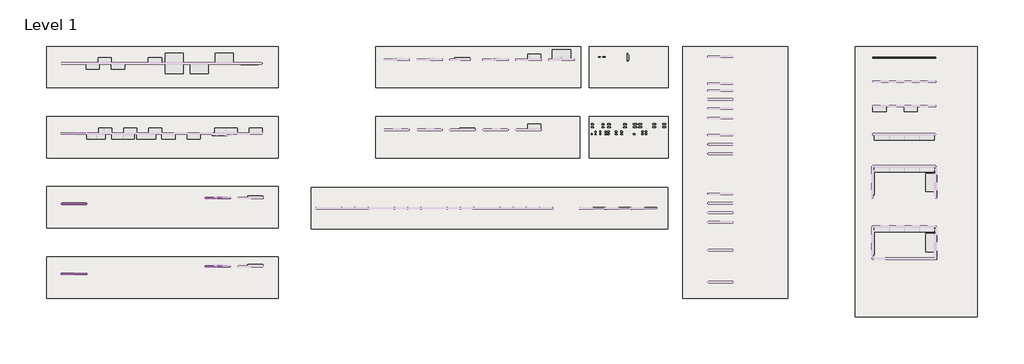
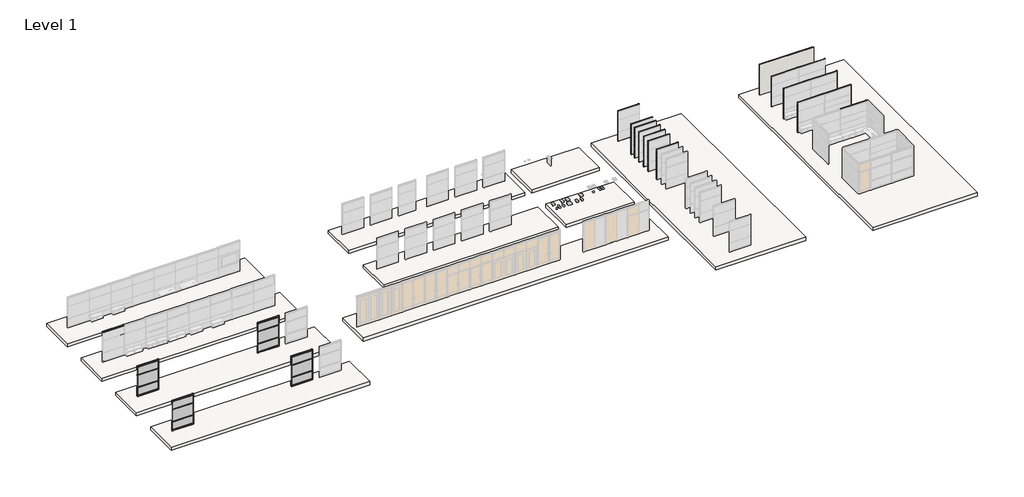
# One storey, part 4 of 13: 52 members, 51 proxies, 11 slabs, 1 wall.
"""IFC4 building model written with IfcOpenShell, lengths in millimetres."""

from ifc_helpers import new_model, si_unit, frame, origin, origin_with_axes, place, context, project, spatial, polyline, outline, extrude, transform, mapped, element, save
from components import fascia_teknion_ceiling_and_base_ffb1_18eda79c, fascia_teknion_ceiling_and_base_ffb1_eec853f0, fascia_teknion_ceiling_and_base_ffb1_01755f40, frame_teknion_horizontal_rail_fkk_5c31f45b, frame_teknion_horizontal_rail_fkk_86cbbdfc, glass_fascia_c39cd329, glass_fascia_9be81d33, glass_fascia_3dd16702, rectangular_mullion_f0f61f1f, rectangular_mullion_816eeb7a, rectangular_mullion_frame_teknion_landscape_vertical_post_05f5e206, rectangular_mullion_frame_teknion_landscape_vertical_post_5ea4eea9, rectangular_mullion_frame_teknion_landscape_vertical_post_1fa3a907

model = new_model("IFC4")

# Units and contexts
model_context = context("Model", 3, world=origin())
ifc_project = project(units=[si_unit("LENGTHUNIT", "METRE", prefix="MILLI")], contexts=[model_context])

# Site, building, storey
site = spatial("IfcSite", under=ifc_project)
building = spatial("IfcBuilding", under=site)
storey = spatial("IfcBuildingStorey", under=building, Name="Level 1", Elevation=0.0)

# Proxies
placement = place(None, origin())
fascia_teknion_ceiling_and_base_ffb1_shape = fascia_teknion_ceiling_and_base_ffb1_18eda79c(model_context)
element("IfcBuildingElementProxy", 1, Name="Fascia-Teknion-Ceiling_and_Base : FFB1", ObjectType="Fascia-Teknion-Ceiling_and_Base : FFB1", at=placement, inside=storey, context=model_context, shape_type="MappedRepresentation", body=[
    mapped(fascia_teknion_ceiling_and_base_ffb1_shape, transform((-44828.5069272, 10408.2163277, 15.875), x_axis=(1.0, 0.0, 0.0), y_axis=(0.0, 1.0, 0.0), z_axis=(0.0, 0.0, 1.0))),
])
element("IfcBuildingElementProxy", 2, Name="Fascia-Teknion-Ceiling_and_Base : FFB1", ObjectType="Fascia-Teknion-Ceiling_and_Base : FFB1", at=placement, inside=storey, context=model_context, shape_type="MappedRepresentation", body=[
    mapped(fascia_teknion_ceiling_and_base_ffb1_shape, transform((-44828.5069272, 10489.2423277, 15.875), x_axis=(1.0, 0.0, 0.0), y_axis=(0.0, 1.0, 0.0), z_axis=(0.0, 0.0, 1.0))),
])
element("IfcBuildingElementProxy", 3, Name="Fascia-Teknion-Ceiling_and_Base : FFB1", ObjectType="Fascia-Teknion-Ceiling_and_Base : FFB1", at=placement, inside=storey, context=model_context, shape_type="MappedRepresentation", body=[
    mapped(fascia_teknion_ceiling_and_base_ffb1_shape, transform((-44828.5069272, 10408.2163277, 2950.845), x_axis=(1.0, 0.0, 0.0), y_axis=(0.0, 1.0, 0.0), z_axis=(0.0, 0.0, 1.0))),
])
element("IfcBuildingElementProxy", 4, Name="Fascia-Teknion-Ceiling_and_Base : FFB1", ObjectType="Fascia-Teknion-Ceiling_and_Base : FFB1", at=placement, inside=storey, context=model_context, shape_type="MappedRepresentation", body=[
    mapped(fascia_teknion_ceiling_and_base_ffb1_shape, transform((-44828.5069272, 10489.2423277, 2950.845), x_axis=(1.0, 0.0, 0.0), y_axis=(0.0, 1.0, 0.0), z_axis=(0.0, 0.0, 1.0))),
])
element("IfcBuildingElementProxy", 5, Name="Fascia-Teknion-Ceiling_and_Base : FFB1", ObjectType="Fascia-Teknion-Ceiling_and_Base : FFB1", at=placement, inside=storey, context=model_context, shape_type="MappedRepresentation", body=[
    mapped(fascia_teknion_ceiling_and_base_ffb1_shape, transform((-44828.5069272, 4726.4903277, 15.875), x_axis=(1.0, 0.0, 0.0), y_axis=(0.0, 1.0, 0.0), z_axis=(0.0, 0.0, 1.0))),
])
element("IfcBuildingElementProxy", 6, Name="Fascia-Teknion-Ceiling_and_Base : FFB1", ObjectType="Fascia-Teknion-Ceiling_and_Base : FFB1", at=placement, inside=storey, context=model_context, shape_type="MappedRepresentation", body=[
    mapped(fascia_teknion_ceiling_and_base_ffb1_shape, transform((-44828.5069272, 4807.5163277, 15.875), x_axis=(1.0, 0.0, 0.0), y_axis=(0.0, 1.0, 0.0), z_axis=(0.0, 0.0, 1.0))),
])
element("IfcBuildingElementProxy", 7, Name="Fascia-Teknion-Ceiling_and_Base : FFB1", ObjectType="Fascia-Teknion-Ceiling_and_Base : FFB1", at=placement, inside=storey, context=model_context, shape_type="MappedRepresentation", body=[
    mapped(fascia_teknion_ceiling_and_base_ffb1_shape, transform((-44828.5069272, 4726.4903277, 2950.845), x_axis=(1.0, 0.0, 0.0), y_axis=(0.0, 1.0, 0.0), z_axis=(0.0, 0.0, 1.0))),
])
element("IfcBuildingElementProxy", 8, Name="Fascia-Teknion-Ceiling_and_Base : FFB1", ObjectType="Fascia-Teknion-Ceiling_and_Base : FFB1", at=placement, inside=storey, context=model_context, shape_type="MappedRepresentation", body=[
    mapped(fascia_teknion_ceiling_and_base_ffb1_shape, transform((-44828.5069272, 4807.5163277, 2950.845), x_axis=(1.0, 0.0, 0.0), y_axis=(0.0, 1.0, 0.0), z_axis=(0.0, 0.0, 1.0))),
])
element("IfcBuildingElementProxy", 9, Name="Fascia-Teknion-Ceiling_and_Base : FFB1", ObjectType="Fascia-Teknion-Ceiling_and_Base : FFB1", at=placement, inside=storey, context=model_context, shape_type="MappedRepresentation", body=[
    mapped(fascia_teknion_ceiling_and_base_ffb1_shape, transform((-33204.1661615, 10865.4163277, 15.875), x_axis=(1.0, 0.0, 0.0), y_axis=(0.0, 1.0, 0.0), z_axis=(0.0, 0.0, 1.0))),
])
element("IfcBuildingElementProxy", 10, Name="Fascia-Teknion-Ceiling_and_Base : FFB1", ObjectType="Fascia-Teknion-Ceiling_and_Base : FFB1", at=placement, inside=storey, context=model_context, shape_type="MappedRepresentation", body=[
    mapped(fascia_teknion_ceiling_and_base_ffb1_shape, transform((-33204.1661615, 10946.4423277, 15.875), x_axis=(1.0, 0.0, 0.0), y_axis=(0.0, 1.0, 0.0), z_axis=(0.0, 0.0, 1.0))),
])
element("IfcBuildingElementProxy", 11, Name="Fascia-Teknion-Ceiling_and_Base : FFB1", ObjectType="Fascia-Teknion-Ceiling_and_Base : FFB1", at=placement, inside=storey, context=model_context, shape_type="MappedRepresentation", body=[
    mapped(fascia_teknion_ceiling_and_base_ffb1_shape, transform((-33204.1661615, 10865.4163277, 2950.845), x_axis=(1.0, 0.0, 0.0), y_axis=(0.0, 1.0, 0.0), z_axis=(0.0, 0.0, 1.0))),
])
element("IfcBuildingElementProxy", 12, Name="Fascia-Teknion-Ceiling_and_Base : FFB1", ObjectType="Fascia-Teknion-Ceiling_and_Base : FFB1", at=placement, inside=storey, context=model_context, shape_type="MappedRepresentation", body=[
    mapped(fascia_teknion_ceiling_and_base_ffb1_shape, transform((-33204.1661615, 10946.4423277, 2950.845), x_axis=(1.0, 0.0, 0.0), y_axis=(0.0, 1.0, 0.0), z_axis=(0.0, 0.0, 1.0))),
])
element("IfcBuildingElementProxy", 13, Name="Fascia-Teknion-Ceiling_and_Base : FFB1", ObjectType="Fascia-Teknion-Ceiling_and_Base : FFB1", at=placement, inside=storey, context=model_context, shape_type="MappedRepresentation", body=[
    mapped(fascia_teknion_ceiling_and_base_ffb1_shape, transform((-33204.1661615, 5336.0903277, 15.875), x_axis=(1.0, 0.0, 0.0), y_axis=(0.0, 1.0, 0.0), z_axis=(0.0, 0.0, 1.0))),
])
element("IfcBuildingElementProxy", 14, Name="Fascia-Teknion-Ceiling_and_Base : FFB1", ObjectType="Fascia-Teknion-Ceiling_and_Base : FFB1", at=placement, inside=storey, context=model_context, shape_type="MappedRepresentation", body=[
    mapped(fascia_teknion_ceiling_and_base_ffb1_shape, transform((-33204.1661615, 5417.1163277, 15.875), x_axis=(1.0, 0.0, 0.0), y_axis=(0.0, 1.0, 0.0), z_axis=(0.0, 0.0, 1.0))),
])
element("IfcBuildingElementProxy", 15, Name="Fascia-Teknion-Ceiling_and_Base : FFB1", ObjectType="Fascia-Teknion-Ceiling_and_Base : FFB1", at=placement, inside=storey, context=model_context, shape_type="MappedRepresentation", body=[
    mapped(fascia_teknion_ceiling_and_base_ffb1_shape, transform((-33204.1661615, 5336.0903277, 2950.845), x_axis=(1.0, 0.0, 0.0), y_axis=(0.0, 1.0, 0.0), z_axis=(0.0, 0.0, 1.0))),
])
element("IfcBuildingElementProxy", 16, Name="Fascia-Teknion-Ceiling_and_Base : FFB1", ObjectType="Fascia-Teknion-Ceiling_and_Base : FFB1", at=placement, inside=storey, context=model_context, shape_type="MappedRepresentation", body=[
    mapped(fascia_teknion_ceiling_and_base_ffb1_shape, transform((-33204.1661615, 5417.1163277, 2950.845), x_axis=(1.0, 0.0, 0.0), y_axis=(0.0, 1.0, 0.0), z_axis=(0.0, 0.0, 1.0))),
])
fascia_teknion_ceiling_and_base_ffb1_2_shape = fascia_teknion_ceiling_and_base_ffb1_eec853f0(model_context)
element("IfcBuildingElementProxy", 17, Name="Fascia-Teknion-Ceiling_and_Base : FFB1", ObjectType="Fascia-Teknion-Ceiling_and_Base : FFB1", at=placement, inside=storey, context=model_context, shape_type="MappedRepresentation", body=[
    mapped(fascia_teknion_ceiling_and_base_ffb1_2_shape, transform((-44821.5120053, 16151.7189796, 15.875), x_axis=(1.0, 0.0, 0.0), y_axis=(0.0, 1.0, 0.0), z_axis=(0.0, 0.0, 1.0))),
])
element("IfcBuildingElementProxy", 18, Name="Fascia-Teknion-Ceiling_and_Base : FFC", ObjectType="Fascia-Teknion-Ceiling_and_Base : FFC", at=placement, inside=storey, context=model_context, shape_type="MappedRepresentation", body=[
    mapped(fascia_teknion_ceiling_and_base_ffb1_2_shape, transform((-44821.5120053, 16151.7189796, 2950.845), x_axis=(1.0, 0.0, 0.0), y_axis=(0.0, 1.0, 0.0), z_axis=(0.0, 0.0, 1.0))),
])
fascia_teknion_ceiling_and_base_ffb1_3_shape = fascia_teknion_ceiling_and_base_ffb1_01755f40(model_context)
element("IfcBuildingElementProxy", 19, Name="Fascia-Teknion-Ceiling_and_Base : FFC", ObjectType="Fascia-Teknion-Ceiling_and_Base : FFC", at=placement, inside=storey, context=model_context, shape_type="MappedRepresentation", body=[
    mapped(fascia_teknion_ceiling_and_base_ffb1_3_shape, transform((-44821.5120053, 16089.7429796, 2950.845), x_axis=(1.0, 0.0, 0.0), y_axis=(0.0, 1.0, 0.0), z_axis=(0.0, 0.0, 1.0))),
])
frame_teknion_horizontal_rail_fkk_shape = frame_teknion_horizontal_rail_fkk_5c31f45b(model_context)
element("IfcBuildingElementProxy", 20, Name="Frame-Teknion-Horizontal_Rail : FKK", ObjectType="Frame-Teknion-Horizontal_Rail : FKK", at=placement, inside=storey, context=model_context, shape_type="MappedRepresentation", body=[
    mapped(frame_teknion_horizontal_rail_fkk_shape, transform((-44821.5120053, 16120.7309796, 100.4514438), x_axis=(1.0, 0.0, 0.0), y_axis=(0.0, 1.0, 0.0), z_axis=(0.0, 0.0, 1.0))),
])
element("IfcBuildingElementProxy", 21, Name="Frame-Teknion-Horizontal_Rail : FKK", ObjectType="Frame-Teknion-Horizontal_Rail : FKK", at=placement, inside=storey, context=model_context, shape_type="MappedRepresentation", body=[
    mapped(frame_teknion_horizontal_rail_fkk_shape, transform((-44821.5120053, 16120.7309796, 2947.5374437), x_axis=(1.0, 0.0, 0.0), y_axis=(0.0, 1.0, 0.0), z_axis=(0.0, 0.0, 1.0))),
])
frame_teknion_horizontal_rail_fkk_2_shape = frame_teknion_horizontal_rail_fkk_86cbbdfc(model_context)
element("IfcBuildingElementProxy", 22, Name="Frame-Teknion-Horizontal_Rail : FKK", ObjectType="Frame-Teknion-Horizontal_Rail : FKK", at=placement, inside=storey, context=model_context, shape_type="MappedRepresentation", body=[
    mapped(frame_teknion_horizontal_rail_fkk_2_shape, transform((-44828.5069272, 10439.2043277, 100.4514438), x_axis=(1.0, 0.0, 0.0), y_axis=(0.0, 1.0, 0.0), z_axis=(0.0, 0.0, 1.0))),
])
element("IfcBuildingElementProxy", 23, Name="Frame-Teknion-Horizontal_Rail : FKK", ObjectType="Frame-Teknion-Horizontal_Rail : FKK", at=placement, inside=storey, context=model_context, shape_type="MappedRepresentation", body=[
    mapped(frame_teknion_horizontal_rail_fkk_2_shape, transform((-44828.5069272, 10439.2043277, 2947.5374437), x_axis=(1.0, 0.0, 0.0), y_axis=(0.0, 1.0, 0.0), z_axis=(0.0, 0.0, 1.0))),
])
element("IfcBuildingElementProxy", 24, Name="Frame-Teknion-Horizontal_Rail : FKK", ObjectType="Frame-Teknion-Horizontal_Rail : FKK", at=placement, inside=storey, context=model_context, shape_type="MappedRepresentation", body=[
    mapped(frame_teknion_horizontal_rail_fkk_2_shape, transform((-44828.5069272, 4757.4783277, 100.4514438), x_axis=(1.0, 0.0, 0.0), y_axis=(0.0, 1.0, 0.0), z_axis=(0.0, 0.0, 1.0))),
])
element("IfcBuildingElementProxy", 25, Name="Frame-Teknion-Horizontal_Rail : FKK", ObjectType="Frame-Teknion-Horizontal_Rail : FKK", at=placement, inside=storey, context=model_context, shape_type="MappedRepresentation", body=[
    mapped(frame_teknion_horizontal_rail_fkk_2_shape, transform((-44828.5069272, 4757.4783277, 2947.5374437), x_axis=(1.0, 0.0, 0.0), y_axis=(0.0, 1.0, 0.0), z_axis=(0.0, 0.0, 1.0))),
])
element("IfcBuildingElementProxy", 26, Name="Frame-Teknion-Horizontal_Rail : FKK", ObjectType="Frame-Teknion-Horizontal_Rail : FKK", at=placement, inside=storey, context=model_context, shape_type="MappedRepresentation", body=[
    mapped(frame_teknion_horizontal_rail_fkk_2_shape, transform((-33204.1661615, 10896.4043277, 100.4514438), x_axis=(1.0, 0.0, 0.0), y_axis=(0.0, 1.0, 0.0), z_axis=(0.0, 0.0, 1.0))),
])
element("IfcBuildingElementProxy", 27, Name="Frame-Teknion-Horizontal_Rail : FKK", ObjectType="Frame-Teknion-Horizontal_Rail : FKK", at=placement, inside=storey, context=model_context, shape_type="MappedRepresentation", body=[
    mapped(frame_teknion_horizontal_rail_fkk_2_shape, transform((-33204.1661615, 10896.4043277, 2947.5374437), x_axis=(1.0, 0.0, 0.0), y_axis=(0.0, 1.0, 0.0), z_axis=(0.0, 0.0, 1.0))),
])
element("IfcBuildingElementProxy", 28, Name="Frame-Teknion-Horizontal_Rail : FKK", ObjectType="Frame-Teknion-Horizontal_Rail : FKK", at=placement, inside=storey, context=model_context, shape_type="MappedRepresentation", body=[
    mapped(frame_teknion_horizontal_rail_fkk_2_shape, transform((-33204.1661615, 5367.0783277, 100.4514438), x_axis=(1.0, 0.0, 0.0), y_axis=(0.0, 1.0, 0.0), z_axis=(0.0, 0.0, 1.0))),
])
element("IfcBuildingElementProxy", 29, Name="Frame-Teknion-Horizontal_Rail : FKK", ObjectType="Frame-Teknion-Horizontal_Rail : FKK", at=placement, inside=storey, context=model_context, shape_type="MappedRepresentation", body=[
    mapped(frame_teknion_horizontal_rail_fkk_2_shape, transform((-33204.1661615, 5367.0783277, 2947.5374437), x_axis=(1.0, 0.0, 0.0), y_axis=(0.0, 1.0, 0.0), z_axis=(0.0, 0.0, 1.0))),
])
element("IfcBuildingElementProxy", 30, Name="Frame-Teknion-Landscape_Horizontal_Rail : FLKH", ObjectType="Frame-Teknion-Landscape_Horizontal_Rail : FLKH", at=placement, inside=storey, context=model_context, shape_type="MappedRepresentation", body=[
    mapped(frame_teknion_horizontal_rail_fkk_shape, transform((-44821.5120053, 16120.7309796, 917.575), x_axis=(1.0, 0.0, 0.0), y_axis=(0.0, 1.0, 0.0), z_axis=(0.0, 0.0, 1.0))),
])
element("IfcBuildingElementProxy", 31, Name="Frame-Teknion-Landscape_Horizontal_Rail : FLKH", ObjectType="Frame-Teknion-Landscape_Horizontal_Rail : FLKH", at=placement, inside=storey, context=model_context, shape_type="MappedRepresentation", body=[
    mapped(frame_teknion_horizontal_rail_fkk_shape, transform((-44821.5120053, 16120.7309796, 2136.775), x_axis=(1.0, 0.0, 0.0), y_axis=(0.0, 1.0, 0.0), z_axis=(0.0, 0.0, 1.0))),
])
element("IfcBuildingElementProxy", 32, Name="Frame-Teknion-Landscape_Horizontal_Rail : FLKH", ObjectType="Frame-Teknion-Landscape_Horizontal_Rail : FLKH", at=placement, inside=storey, context=model_context, shape_type="MappedRepresentation", body=[
    mapped(frame_teknion_horizontal_rail_fkk_2_shape, transform((-44828.5069272, 10439.2043277, 917.575), x_axis=(1.0, 0.0, 0.0), y_axis=(0.0, 1.0, 0.0), z_axis=(0.0, 0.0, 1.0))),
])
element("IfcBuildingElementProxy", 33, Name="Frame-Teknion-Landscape_Horizontal_Rail : FLKH", ObjectType="Frame-Teknion-Landscape_Horizontal_Rail : FLKH", at=placement, inside=storey, context=model_context, shape_type="MappedRepresentation", body=[
    mapped(frame_teknion_horizontal_rail_fkk_2_shape, transform((-44828.5069272, 10439.2043277, 2136.775), x_axis=(1.0, 0.0, 0.0), y_axis=(0.0, 1.0, 0.0), z_axis=(0.0, 0.0, 1.0))),
])
element("IfcBuildingElementProxy", 34, Name="Frame-Teknion-Landscape_Horizontal_Rail : FLKH", ObjectType="Frame-Teknion-Landscape_Horizontal_Rail : FLKH", at=placement, inside=storey, context=model_context, shape_type="MappedRepresentation", body=[
    mapped(frame_teknion_horizontal_rail_fkk_2_shape, transform((-44828.5069272, 4757.4783277, 917.575), x_axis=(1.0, 0.0, 0.0), y_axis=(0.0, 1.0, 0.0), z_axis=(0.0, 0.0, 1.0))),
])
element("IfcBuildingElementProxy", 35, Name="Frame-Teknion-Landscape_Horizontal_Rail : FLKH", ObjectType="Frame-Teknion-Landscape_Horizontal_Rail : FLKH", at=placement, inside=storey, context=model_context, shape_type="MappedRepresentation", body=[
    mapped(frame_teknion_horizontal_rail_fkk_2_shape, transform((-44828.5069272, 4757.4783277, 2136.775), x_axis=(1.0, 0.0, 0.0), y_axis=(0.0, 1.0, 0.0), z_axis=(0.0, 0.0, 1.0))),
])
element("IfcBuildingElementProxy", 36, Name="Frame-Teknion-Landscape_Horizontal_Rail : FLKH", ObjectType="Frame-Teknion-Landscape_Horizontal_Rail : FLKH", at=placement, inside=storey, context=model_context, shape_type="MappedRepresentation", body=[
    mapped(frame_teknion_horizontal_rail_fkk_2_shape, transform((-33204.1661615, 10896.4043277, 917.575), x_axis=(1.0, 0.0, 0.0), y_axis=(0.0, 1.0, 0.0), z_axis=(0.0, 0.0, 1.0))),
])
element("IfcBuildingElementProxy", 37, Name="Frame-Teknion-Landscape_Horizontal_Rail : FLKH", ObjectType="Frame-Teknion-Landscape_Horizontal_Rail : FLKH", at=placement, inside=storey, context=model_context, shape_type="MappedRepresentation", body=[
    mapped(frame_teknion_horizontal_rail_fkk_2_shape, transform((-33204.1661615, 10896.4043277, 2136.775), x_axis=(1.0, 0.0, 0.0), y_axis=(0.0, 1.0, 0.0), z_axis=(0.0, 0.0, 1.0))),
])
element("IfcBuildingElementProxy", 38, Name="Frame-Teknion-Landscape_Horizontal_Rail : FLKH", ObjectType="Frame-Teknion-Landscape_Horizontal_Rail : FLKH", at=placement, inside=storey, context=model_context, shape_type="MappedRepresentation", body=[
    mapped(frame_teknion_horizontal_rail_fkk_2_shape, transform((-33204.1661615, 5367.0783277, 917.575), x_axis=(1.0, 0.0, 0.0), y_axis=(0.0, 1.0, 0.0), z_axis=(0.0, 0.0, 1.0))),
])
element("IfcBuildingElementProxy", 39, Name="Frame-Teknion-Landscape_Horizontal_Rail : FLKH", ObjectType="Frame-Teknion-Landscape_Horizontal_Rail : FLKH", at=placement, inside=storey, context=model_context, shape_type="MappedRepresentation", body=[
    mapped(frame_teknion_horizontal_rail_fkk_2_shape, transform((-33204.1661615, 5367.0783277, 2136.775), x_axis=(1.0, 0.0, 0.0), y_axis=(0.0, 1.0, 0.0), z_axis=(0.0, 0.0, 1.0))),
])
glass_fascia_shape = glass_fascia_c39cd329(model_context)
element("IfcBuildingElementProxy", 40, Name="Panel-Fascia-Teknion-Altos-Glass : Glass Fascia", ObjectType="Panel-Fascia-Teknion-Altos-Glass : Glass Fascia", at=placement, inside=storey, context=model_context, shape_type="MappedRepresentation", body=[
    mapped(glass_fascia_shape, transform((-44828.5069272, 10439.2221871, 2136.775), x_axis=(1.0, 0.0, 0.0), y_axis=(0.0, 1.0, 0.0), z_axis=(0.0, 0.0, 1.0))),
])
element("IfcBuildingElementProxy", 41, Name="Panel-Fascia-Teknion-Altos-Glass : Glass Fascia", ObjectType="Panel-Fascia-Teknion-Altos-Glass : Glass Fascia", at=placement, inside=storey, context=model_context, shape_type="MappedRepresentation", body=[
    mapped(glass_fascia_shape, transform((-44828.5069272, 4757.4961871, 2136.775), x_axis=(1.0, 0.0, 0.0), y_axis=(0.0, 1.0, 0.0), z_axis=(0.0, 0.0, 1.0))),
])
element("IfcBuildingElementProxy", 42, Name="Panel-Fascia-Teknion-Altos-Glass : Glass Fascia", ObjectType="Panel-Fascia-Teknion-Altos-Glass : Glass Fascia", at=placement, inside=storey, context=model_context, shape_type="MappedRepresentation", body=[
    mapped(glass_fascia_shape, transform((-33204.1661615, 10896.4221871, 2136.775), x_axis=(1.0, 0.0, 0.0), y_axis=(0.0, 1.0, 0.0), z_axis=(0.0, 0.0, 1.0))),
])
element("IfcBuildingElementProxy", 43, Name="Panel-Fascia-Teknion-Altos-Glass : Glass Fascia", ObjectType="Panel-Fascia-Teknion-Altos-Glass : Glass Fascia", at=placement, inside=storey, context=model_context, shape_type="MappedRepresentation", body=[
    mapped(glass_fascia_shape, transform((-33204.1661615, 5367.0961871, 2136.775), x_axis=(1.0, 0.0, 0.0), y_axis=(0.0, 1.0, 0.0), z_axis=(0.0, 0.0, 1.0))),
])
glass_fascia_2_shape = glass_fascia_9be81d33(model_context)
element("IfcBuildingElementProxy", 44, Name="Panel-Fascia-Teknion-Altos-Glass : Glass Fascia", ObjectType="Panel-Fascia-Teknion-Altos-Glass : Glass Fascia", at=placement, inside=storey, context=model_context, shape_type="MappedRepresentation", body=[
    mapped(glass_fascia_2_shape, transform((-44828.5069272, 10439.2221871, 917.575), x_axis=(1.0, 0.0, 0.0), y_axis=(0.0, 1.0, 0.0), z_axis=(0.0, 0.0, 1.0))),
])
element("IfcBuildingElementProxy", 45, Name="Panel-Fascia-Teknion-Altos-Glass : Glass Fascia", ObjectType="Panel-Fascia-Teknion-Altos-Glass : Glass Fascia", at=placement, inside=storey, context=model_context, shape_type="MappedRepresentation", body=[
    mapped(glass_fascia_2_shape, transform((-44828.5069272, 4757.4961871, 917.575), x_axis=(1.0, 0.0, 0.0), y_axis=(0.0, 1.0, 0.0), z_axis=(0.0, 0.0, 1.0))),
])
element("IfcBuildingElementProxy", 46, Name="Panel-Fascia-Teknion-Altos-Glass : Glass Fascia", ObjectType="Panel-Fascia-Teknion-Altos-Glass : Glass Fascia", at=placement, inside=storey, context=model_context, shape_type="MappedRepresentation", body=[
    mapped(glass_fascia_2_shape, transform((-33204.1661615, 10896.4221871, 917.575), x_axis=(1.0, 0.0, 0.0), y_axis=(0.0, 1.0, 0.0), z_axis=(0.0, 0.0, 1.0))),
])
element("IfcBuildingElementProxy", 47, Name="Panel-Fascia-Teknion-Altos-Glass : Glass Fascia", ObjectType="Panel-Fascia-Teknion-Altos-Glass : Glass Fascia", at=placement, inside=storey, context=model_context, shape_type="MappedRepresentation", body=[
    mapped(glass_fascia_2_shape, transform((-33204.1661615, 5367.0961871, 917.575), x_axis=(1.0, 0.0, 0.0), y_axis=(0.0, 1.0, 0.0), z_axis=(0.0, 0.0, 1.0))),
])
glass_fascia_3_shape = glass_fascia_3dd16702(model_context)
element("IfcBuildingElementProxy", 48, Name="Panel-Fascia-Teknion-Altos-Glass : Glass Fascia", ObjectType="Panel-Fascia-Teknion-Altos-Glass : Glass Fascia", at=placement, inside=storey, context=model_context, shape_type="MappedRepresentation", body=[
    mapped(glass_fascia_3_shape, transform((-44828.5069272, 10439.2221871, 100.457), x_axis=(1.0, 0.0, 0.0), y_axis=(0.0, 1.0, 0.0), z_axis=(0.0, 0.0, 1.0))),
])
element("IfcBuildingElementProxy", 49, Name="Panel-Fascia-Teknion-Altos-Glass : Glass Fascia", ObjectType="Panel-Fascia-Teknion-Altos-Glass : Glass Fascia", at=placement, inside=storey, context=model_context, shape_type="MappedRepresentation", body=[
    mapped(glass_fascia_3_shape, transform((-44828.5069272, 4757.4961871, 100.457), x_axis=(1.0, 0.0, 0.0), y_axis=(0.0, 1.0, 0.0), z_axis=(0.0, 0.0, 1.0))),
])
element("IfcBuildingElementProxy", 50, Name="Panel-Fascia-Teknion-Altos-Glass : Glass Fascia", ObjectType="Panel-Fascia-Teknion-Altos-Glass : Glass Fascia", at=placement, inside=storey, context=model_context, shape_type="MappedRepresentation", body=[
    mapped(glass_fascia_3_shape, transform((-33204.1661615, 10896.4221871, 100.457), x_axis=(1.0, 0.0, 0.0), y_axis=(0.0, 1.0, 0.0), z_axis=(0.0, 0.0, 1.0))),
])
element("IfcBuildingElementProxy", 51, Name="Panel-Fascia-Teknion-Altos-Glass : Glass Fascia", ObjectType="Panel-Fascia-Teknion-Altos-Glass : Glass Fascia", at=placement, inside=storey, context=model_context, shape_type="MappedRepresentation", body=[
    mapped(glass_fascia_3_shape, transform((-33204.1661615, 5367.0961871, 100.457), x_axis=(1.0, 0.0, 0.0), y_axis=(0.0, 1.0, 0.0), z_axis=(0.0, 0.0, 1.0))),
])

# Members
rectangular_mullion_shape = rectangular_mullion_f0f61f1f(model_context)
element("IfcMember", 52, ObjectType="Rectangular Mullion : Frame-Teknion-Altos-Ceiling_Channel", at=placement, inside=storey, context=model_context, shape_type="MappedRepresentation", body=[
    mapped(rectangular_mullion_shape, transform((8457.8854208, 22343.7089257, 3048.0), x_axis=(0.0, 0.0, 1.0), y_axis=(0.0, -1.0, 0.0), z_axis=(1.0, 0.0, 0.0))),
])
element("IfcMember", 53, ObjectType="Rectangular Mullion : Frame-Teknion-Altos-Ceiling_Channel", at=placement, inside=storey, context=model_context, shape_type="MappedRepresentation", body=[
    mapped(rectangular_mullion_shape, transform((8457.8650988, 20169.483915, 3048.0), x_axis=(0.0, 0.0, 1.0), y_axis=(0.0, -1.0, 0.0), z_axis=(1.0, 0.0, 0.0))),
])
element("IfcMember", 54, ObjectType="Rectangular Mullion : Frame-Teknion-Altos-Ceiling_Channel", at=placement, inside=storey, context=model_context, shape_type="MappedRepresentation", body=[
    mapped(rectangular_mullion_shape, transform((8453.0631112, 18134.0719099, 3048.0), x_axis=(0.0, 0.0, 1.0), y_axis=(0.0, -1.0, 0.0), z_axis=(1.0, 0.0, 0.0))),
])
element("IfcMember", 55, ObjectType="Rectangular Mullion : Frame-Teknion-Altos-Ceiling_Channel", at=placement, inside=storey, context=model_context, shape_type="MappedRepresentation", body=[
    mapped(rectangular_mullion_shape, transform((8453.0631112, 17372.0719099, 3048.0), x_axis=(0.0, 0.0, 1.0), y_axis=(0.0, -1.0, 0.0), z_axis=(1.0, 0.0, 0.0))),
])
element("IfcMember", 56, ObjectType="Rectangular Mullion : Frame-Teknion-Altos-Ceiling_Channel", at=placement, inside=storey, context=model_context, shape_type="MappedRepresentation", body=[
    mapped(rectangular_mullion_shape, transform((8453.0631112, 18896.0719099, 3048.0), x_axis=(0.0, 0.0, 1.0), y_axis=(0.0, -1.0, 0.0), z_axis=(1.0, 0.0, 0.0))),
])
element("IfcMember", 57, ObjectType="Rectangular Mullion : Frame-Teknion-Altos-Ceiling_Channel", at=placement, inside=storey, context=model_context, shape_type="MappedRepresentation", body=[
    mapped(rectangular_mullion_shape, transform((8457.8650988, 16001.4686297, 3048.0), x_axis=(0.0, 0.0, 1.0), y_axis=(0.0, -1.0, 0.0), z_axis=(1.0, 0.0, 0.0))),
])
element("IfcMember", 58, ObjectType="Rectangular Mullion : Frame-Teknion-Altos-Ceiling_Channel", at=placement, inside=storey, context=model_context, shape_type="MappedRepresentation", body=[
    mapped(rectangular_mullion_shape, transform((8457.8650988, 19589.2676573, 3048.0), x_axis=(0.0, 0.0, 1.0), y_axis=(0.0, -1.0, 0.0), z_axis=(1.0, 0.0, 0.0))),
])
element("IfcMember", 59, ObjectType="Rectangular Mullion : Frame-Teknion-Altos-Base_Channel", at=placement, inside=storey, context=model_context, shape_type="MappedRepresentation", body=[
    mapped(rectangular_mullion_shape, transform((6481.8447958, 22343.7089257, 0.0), x_axis=(0.0, 0.0, -1.0), y_axis=(0.0, -1.0, 0.0), z_axis=(-1.0, 0.0, 0.0))),
])
element("IfcMember", 60, ObjectType="Rectangular Mullion : Frame-Teknion-Altos-Base_Channel", at=placement, inside=storey, context=model_context, shape_type="MappedRepresentation", body=[
    mapped(rectangular_mullion_shape, transform((6481.8244738, 20169.483915, 0.0), x_axis=(0.0, 0.0, -1.0), y_axis=(0.0, -1.0, 0.0), z_axis=(-1.0, 0.0, 0.0))),
])
element("IfcMember", 61, ObjectType="Rectangular Mullion : Frame-Teknion-Altos-Base_Channel", at=placement, inside=storey, context=model_context, shape_type="MappedRepresentation", body=[
    mapped(rectangular_mullion_shape, transform((6477.0224862, 18134.0719099, 0.0), x_axis=(0.0, 0.0, -1.0), y_axis=(0.0, -1.0, 0.0), z_axis=(-1.0, 0.0, 0.0))),
])
element("IfcMember", 62, ObjectType="Rectangular Mullion : Frame-Teknion-Altos-Base_Channel", at=placement, inside=storey, context=model_context, shape_type="MappedRepresentation", body=[
    mapped(rectangular_mullion_shape, transform((6477.0224862, 17372.0719099, 0.0), x_axis=(0.0, 0.0, -1.0), y_axis=(0.0, -1.0, 0.0), z_axis=(-1.0, 0.0, 0.0))),
])
element("IfcMember", 63, ObjectType="Rectangular Mullion : Frame-Teknion-Altos-Base_Channel", at=placement, inside=storey, context=model_context, shape_type="MappedRepresentation", body=[
    mapped(rectangular_mullion_shape, transform((6477.0224862, 18896.0719099, 0.0), x_axis=(0.0, 0.0, -1.0), y_axis=(0.0, -1.0, 0.0), z_axis=(-1.0, 0.0, 0.0))),
])
element("IfcMember", 64, ObjectType="Rectangular Mullion : Frame-Teknion-Altos-Base_Channel", at=placement, inside=storey, context=model_context, shape_type="MappedRepresentation", body=[
    mapped(rectangular_mullion_shape, transform((6481.8244738, 16001.4686297, 0.0), x_axis=(0.0, 0.0, -1.0), y_axis=(0.0, -1.0, 0.0), z_axis=(-1.0, 0.0, 0.0))),
])
element("IfcMember", 65, ObjectType="Rectangular Mullion : Frame-Teknion-Altos-Base_Channel", at=placement, inside=storey, context=model_context, shape_type="MappedRepresentation", body=[
    mapped(rectangular_mullion_shape, transform((6481.8244738, 19589.2676573, 0.0), x_axis=(0.0, 0.0, -1.0), y_axis=(0.0, -1.0, 0.0), z_axis=(-1.0, 0.0, 0.0))),
])
rectangular_mullion_2_shape = rectangular_mullion_816eeb7a(model_context)
element("IfcMember", 66, ObjectType="Rectangular Mullion : Frame-Teknion-Altos-Ceiling_Channel", at=placement, inside=storey, context=model_context, shape_type="MappedRepresentation", body=[
    mapped(rectangular_mullion_2_shape, transform((24849.4542994, 20326.5189536, 3048.0), x_axis=(0.0, 0.0, 1.0), y_axis=(0.0, -1.0, 0.0), z_axis=(1.0, 0.0, 0.0))),
])
element("IfcMember", 67, ObjectType="Rectangular Mullion : Frame-Teknion-Altos-Ceiling_Channel", at=placement, inside=storey, context=model_context, shape_type="MappedRepresentation", body=[
    mapped(rectangular_mullion_2_shape, transform((22323.4441431, 20326.5189536, 3048.0), x_axis=(0.0, 0.0, 1.0), y_axis=(0.0, -1.0, 0.0), z_axis=(1.0, 0.0, 0.0))),
])
element("IfcMember", 68, ObjectType="Rectangular Mullion : Frame-Teknion-Altos-Ceiling_Channel", at=placement, inside=storey, context=model_context, shape_type="MappedRepresentation", body=[
    mapped(rectangular_mullion_2_shape, transform((24849.4542994, 18345.3189536, 3048.0), x_axis=(0.0, 0.0, 1.0), y_axis=(0.0, -1.0, 0.0), z_axis=(1.0, 0.0, 0.0))),
])
element("IfcMember", 69, ObjectType="Rectangular Mullion : Frame-Teknion-Altos-Ceiling_Channel", at=placement, inside=storey, context=model_context, shape_type="MappedRepresentation", body=[
    mapped(rectangular_mullion_2_shape, transform((22323.4441431, 18345.3189536, 3048.0), x_axis=(0.0, 0.0, 1.0), y_axis=(0.0, -1.0, 0.0), z_axis=(1.0, 0.0, 0.0))),
])
element("IfcMember", 70, ObjectType="Rectangular Mullion : Frame-Teknion-Altos-Ceiling_Channel", at=placement, inside=storey, context=model_context, shape_type="MappedRepresentation", body=[
    mapped(rectangular_mullion_2_shape, transform((24849.4542994, 16051.5066297, 3048.0), x_axis=(0.0, 0.0, 1.0), y_axis=(0.0, -1.0, 0.0), z_axis=(1.0, 0.0, 0.0))),
])
element("IfcMember", 71, ObjectType="Rectangular Mullion : Frame-Teknion-Altos-Ceiling_Channel", at=placement, inside=storey, context=model_context, shape_type="MappedRepresentation", body=[
    mapped(rectangular_mullion_2_shape, transform((22323.4441431, 16051.5066297, 3048.0), x_axis=(0.0, 0.0, 1.0), y_axis=(0.0, -1.0, 0.0), z_axis=(1.0, 0.0, 0.0))),
])
element("IfcMember", 72, ObjectType="Rectangular Mullion : Frame-Teknion-Altos-Ceiling_Channel", at=placement, inside=storey, context=model_context, shape_type="MappedRepresentation", body=[
    mapped(rectangular_mullion_2_shape, transform((24849.4542994, 13468.4986412, 3048.0), x_axis=(0.0, 0.0, 1.0), y_axis=(0.0, -1.0, 0.0), z_axis=(1.0, 0.0, 0.0))),
])
element("IfcMember", 73, ObjectType="Rectangular Mullion : Frame-Teknion-Altos-Base_Channel", at=placement, inside=storey, context=model_context, shape_type="MappedRepresentation", body=[
    mapped(rectangular_mullion_2_shape, transform((19825.4136744, 20326.5189536, 0.0), x_axis=(0.0, 0.0, -1.0), y_axis=(0.0, -1.0, 0.0), z_axis=(-1.0, 0.0, 0.0))),
])
element("IfcMember", 74, ObjectType="Rectangular Mullion : Frame-Teknion-Altos-Base_Channel", at=placement, inside=storey, context=model_context, shape_type="MappedRepresentation", body=[
    mapped(rectangular_mullion_2_shape, transform((22351.4238306, 20326.5189536, 0.0), x_axis=(0.0, 0.0, -1.0), y_axis=(0.0, -1.0, 0.0), z_axis=(-1.0, 0.0, 0.0))),
])
element("IfcMember", 75, ObjectType="Rectangular Mullion : Frame-Teknion-Altos-Base_Channel", at=placement, inside=storey, context=model_context, shape_type="MappedRepresentation", body=[
    mapped(rectangular_mullion_2_shape, transform((19825.4136744, 18345.3189536, 0.0), x_axis=(0.0, 0.0, -1.0), y_axis=(0.0, -1.0, 0.0), z_axis=(-1.0, 0.0, 0.0))),
])
element("IfcMember", 76, ObjectType="Rectangular Mullion : Frame-Teknion-Altos-Base_Channel", at=placement, inside=storey, context=model_context, shape_type="MappedRepresentation", body=[
    mapped(rectangular_mullion_2_shape, transform((22351.4238306, 18345.3189536, 0.0), x_axis=(0.0, 0.0, -1.0), y_axis=(0.0, -1.0, 0.0), z_axis=(-1.0, 0.0, 0.0))),
])
element("IfcMember", 77, ObjectType="Rectangular Mullion : Frame-Teknion-Altos-Base_Channel", at=placement, inside=storey, context=model_context, shape_type="MappedRepresentation", body=[
    mapped(rectangular_mullion_2_shape, transform((19825.4136744, 16051.5066297, 0.0), x_axis=(0.0, 0.0, -1.0), y_axis=(0.0, -1.0, 0.0), z_axis=(-1.0, 0.0, 0.0))),
])
element("IfcMember", 78, ObjectType="Rectangular Mullion : Frame-Teknion-Altos-Base_Channel", at=placement, inside=storey, context=model_context, shape_type="MappedRepresentation", body=[
    mapped(rectangular_mullion_2_shape, transform((22351.4238306, 16051.5066297, 0.0), x_axis=(0.0, 0.0, -1.0), y_axis=(0.0, -1.0, 0.0), z_axis=(-1.0, 0.0, 0.0))),
])
rectangular_mullion_frame_teknion_landscape_vertical_post_shape = rectangular_mullion_frame_teknion_landscape_vertical_post_05f5e206(model_context)
element("IfcMember", 79, ObjectType="Rectangular Mullion : Frame-Teknion-Landscape_Vertical_Post", at=placement, inside=storey, context=model_context, shape_type="MappedRepresentation", body=[
    mapped(rectangular_mullion_frame_teknion_landscape_vertical_post_shape, transform((22337.4339869, 20326.5189536, 0.0), x_axis=(1.0, 0.0, 0.0), y_axis=(0.0, -1.0, 0.0), z_axis=(0.0, 0.0, -1.0))),
])
element("IfcMember", 80, ObjectType="Rectangular Mullion : Frame-Teknion-Landscape_Vertical_Post", at=placement, inside=storey, context=model_context, shape_type="MappedRepresentation", body=[
    mapped(rectangular_mullion_frame_teknion_landscape_vertical_post_shape, transform((22337.4339869, 18345.3189536, 0.0), x_axis=(1.0, 0.0, 0.0), y_axis=(0.0, -1.0, 0.0), z_axis=(0.0, 0.0, -1.0))),
])
element("IfcMember", 81, ObjectType="Rectangular Mullion : Frame-Teknion-Landscape_Vertical_Post", at=placement, inside=storey, context=model_context, shape_type="MappedRepresentation", body=[
    mapped(rectangular_mullion_frame_teknion_landscape_vertical_post_shape, transform((22337.4339869, 16051.5066297, 0.0), x_axis=(1.0, 0.0, 0.0), y_axis=(0.0, -1.0, 0.0), z_axis=(0.0, 0.0, -1.0))),
])
rectangular_mullion_frame_teknion_landscape_vertical_post_2_shape = rectangular_mullion_frame_teknion_landscape_vertical_post_5ea4eea9(model_context)
element("IfcMember", 82, ObjectType="Rectangular Mullion : Frame-Teknion-Landscape_Vertical_Post", at=placement, inside=storey, context=model_context, shape_type="MappedRepresentation", body=[
    mapped(rectangular_mullion_frame_teknion_landscape_vertical_post_2_shape, transform((24877.4339869, 20326.5189536, 0.0), x_axis=(1.0, 0.0, 0.0), y_axis=(0.0, -1.0, 0.0), z_axis=(0.0, 0.0, -1.0))),
])
element("IfcMember", 83, ObjectType="Rectangular Mullion : Frame-Teknion-Landscape_Vertical_Post", at=placement, inside=storey, context=model_context, shape_type="MappedRepresentation", body=[
    mapped(rectangular_mullion_frame_teknion_landscape_vertical_post_2_shape, transform((24877.4339869, 18345.3189536, 0.0), x_axis=(1.0, 0.0, 0.0), y_axis=(0.0, -1.0, 0.0), z_axis=(0.0, 0.0, -1.0))),
])
element("IfcMember", 84, ObjectType="Rectangular Mullion : Frame-Teknion-Landscape_Vertical_Post", at=placement, inside=storey, context=model_context, shape_type="MappedRepresentation", body=[
    mapped(rectangular_mullion_frame_teknion_landscape_vertical_post_2_shape, transform((24877.4339869, 16051.5066297, 0.0), x_axis=(1.0, 0.0, 0.0), y_axis=(0.0, -1.0, 0.0), z_axis=(0.0, 0.0, -1.0))),
])
element("IfcMember", 85, ObjectType="Rectangular Mullion : Frame-Teknion-Landscape_Vertical_Post", at=placement, inside=storey, context=model_context, shape_type="MappedRepresentation", body=[
    mapped(rectangular_mullion_frame_teknion_landscape_vertical_post_2_shape, transform((24877.4339869, 13468.4986412, 0.0), x_axis=(1.0, 0.0, 0.0), y_axis=(0.0, -1.0, 0.0), z_axis=(0.0, 0.0, -1.0))),
])
element("IfcMember", 86, ObjectType="Rectangular Mullion : Frame-Teknion-Landscape_Vertical_Post", at=placement, inside=storey, context=model_context, shape_type="MappedRepresentation", body=[
    mapped(rectangular_mullion_frame_teknion_landscape_vertical_post_2_shape, transform((8485.8651083, 22343.7089257, 0.0), x_axis=(1.0, 0.0, 0.0), y_axis=(0.0, -1.0, 0.0), z_axis=(0.0, 0.0, -1.0))),
])
element("IfcMember", 87, ObjectType="Rectangular Mullion : Frame-Teknion-Landscape_Vertical_Post", at=placement, inside=storey, context=model_context, shape_type="MappedRepresentation", body=[
    mapped(rectangular_mullion_frame_teknion_landscape_vertical_post_2_shape, transform((8485.8447863, 20169.483915, 0.0), x_axis=(1.0, 0.0, 0.0), y_axis=(0.0, -1.0, 0.0), z_axis=(0.0, 0.0, -1.0))),
])
element("IfcMember", 88, ObjectType="Rectangular Mullion : Frame-Teknion-Landscape_Vertical_Post", at=placement, inside=storey, context=model_context, shape_type="MappedRepresentation", body=[
    mapped(rectangular_mullion_frame_teknion_landscape_vertical_post_2_shape, transform((8481.0427987, 18134.0719099, 0.0), x_axis=(1.0, 0.0, 0.0), y_axis=(0.0, -1.0, 0.0), z_axis=(0.0, 0.0, -1.0))),
])
element("IfcMember", 89, ObjectType="Rectangular Mullion : Frame-Teknion-Landscape_Vertical_Post", at=placement, inside=storey, context=model_context, shape_type="MappedRepresentation", body=[
    mapped(rectangular_mullion_frame_teknion_landscape_vertical_post_2_shape, transform((8481.0427987, 17372.0719099, 0.0), x_axis=(1.0, 0.0, 0.0), y_axis=(0.0, -1.0, 0.0), z_axis=(0.0, 0.0, -1.0))),
])
element("IfcMember", 90, ObjectType="Rectangular Mullion : Frame-Teknion-Landscape_Vertical_Post", at=placement, inside=storey, context=model_context, shape_type="MappedRepresentation", body=[
    mapped(rectangular_mullion_frame_teknion_landscape_vertical_post_2_shape, transform((8481.0427987, 18896.0719099, 0.0), x_axis=(1.0, 0.0, 0.0), y_axis=(0.0, -1.0, 0.0), z_axis=(0.0, 0.0, -1.0))),
])
element("IfcMember", 91, ObjectType="Rectangular Mullion : Frame-Teknion-Landscape_Vertical_Post", at=placement, inside=storey, context=model_context, shape_type="MappedRepresentation", body=[
    mapped(rectangular_mullion_frame_teknion_landscape_vertical_post_2_shape, transform((8485.8447863, 16001.4686297, 0.0), x_axis=(1.0, 0.0, 0.0), y_axis=(0.0, -1.0, 0.0), z_axis=(0.0, 0.0, -1.0))),
])
element("IfcMember", 92, ObjectType="Rectangular Mullion : Frame-Teknion-Landscape_Vertical_Post", at=placement, inside=storey, context=model_context, shape_type="MappedRepresentation", body=[
    mapped(rectangular_mullion_frame_teknion_landscape_vertical_post_2_shape, transform((8485.8447863, 19589.2676573, 0.0), x_axis=(1.0, 0.0, 0.0), y_axis=(0.0, -1.0, 0.0), z_axis=(0.0, 0.0, -1.0))),
])
rectangular_mullion_frame_teknion_landscape_vertical_post_3_shape = rectangular_mullion_frame_teknion_landscape_vertical_post_1fa3a907(model_context)
element("IfcMember", 93, ObjectType="Rectangular Mullion : Frame-Teknion-Landscape_Vertical_Post", at=placement, inside=storey, context=model_context, shape_type="MappedRepresentation", body=[
    mapped(rectangular_mullion_frame_teknion_landscape_vertical_post_3_shape, transform((19797.4339869, 20326.5189536, 3048.0), x_axis=(-1.0, 0.0, 0.0), y_axis=(0.0, -1.0, 0.0), z_axis=(0.0, 0.0, 1.0))),
])
element("IfcMember", 94, ObjectType="Rectangular Mullion : Frame-Teknion-Landscape_Vertical_Post", at=placement, inside=storey, context=model_context, shape_type="MappedRepresentation", body=[
    mapped(rectangular_mullion_frame_teknion_landscape_vertical_post_3_shape, transform((19797.4339869, 18345.3189536, 3048.0), x_axis=(-1.0, 0.0, 0.0), y_axis=(0.0, -1.0, 0.0), z_axis=(0.0, 0.0, 1.0))),
])
element("IfcMember", 95, ObjectType="Rectangular Mullion : Frame-Teknion-Landscape_Vertical_Post", at=placement, inside=storey, context=model_context, shape_type="MappedRepresentation", body=[
    mapped(rectangular_mullion_frame_teknion_landscape_vertical_post_3_shape, transform((19797.4339869, 16051.5066297, 3048.0), x_axis=(-1.0, 0.0, 0.0), y_axis=(0.0, -1.0, 0.0), z_axis=(0.0, 0.0, 1.0))),
])
element("IfcMember", 96, ObjectType="Rectangular Mullion : Frame-Teknion-Landscape_Vertical_Post", at=placement, inside=storey, context=model_context, shape_type="MappedRepresentation", body=[
    mapped(rectangular_mullion_frame_teknion_landscape_vertical_post_3_shape, transform((24914.942591, 13430.9986407, 3048.0), x_axis=(0.0, 1.0, 0.0), y_axis=(-1.0, 0.0, 0.0), z_axis=(0.0, 0.0, 1.0))),
])
element("IfcMember", 97, ObjectType="Rectangular Mullion : Frame-Teknion-Landscape_Vertical_Post", at=placement, inside=storey, context=model_context, shape_type="MappedRepresentation", body=[
    mapped(rectangular_mullion_frame_teknion_landscape_vertical_post_3_shape, transform((6453.8651083, 22343.7089257, 3048.0), x_axis=(-1.0, 0.0, 0.0), y_axis=(0.0, -1.0, 0.0), z_axis=(0.0, 0.0, 1.0))),
])
element("IfcMember", 98, ObjectType="Rectangular Mullion : Frame-Teknion-Landscape_Vertical_Post", at=placement, inside=storey, context=model_context, shape_type="MappedRepresentation", body=[
    mapped(rectangular_mullion_frame_teknion_landscape_vertical_post_3_shape, transform((6453.8447863, 20169.483915, 3048.0), x_axis=(-1.0, 0.0, 0.0), y_axis=(0.0, -1.0, 0.0), z_axis=(0.0, 0.0, 1.0))),
])
element("IfcMember", 99, ObjectType="Rectangular Mullion : Frame-Teknion-Landscape_Vertical_Post", at=placement, inside=storey, context=model_context, shape_type="MappedRepresentation", body=[
    mapped(rectangular_mullion_frame_teknion_landscape_vertical_post_3_shape, transform((6449.0427987, 18134.0719099, 3048.0), x_axis=(-1.0, 0.0, 0.0), y_axis=(0.0, -1.0, 0.0), z_axis=(0.0, 0.0, 1.0))),
])
element("IfcMember", 100, ObjectType="Rectangular Mullion : Frame-Teknion-Landscape_Vertical_Post", at=placement, inside=storey, context=model_context, shape_type="MappedRepresentation", body=[
    mapped(rectangular_mullion_frame_teknion_landscape_vertical_post_3_shape, transform((6449.0427987, 17372.0719099, 3048.0), x_axis=(-1.0, 0.0, 0.0), y_axis=(0.0, -1.0, 0.0), z_axis=(0.0, 0.0, 1.0))),
])
element("IfcMember", 101, ObjectType="Rectangular Mullion : Frame-Teknion-Landscape_Vertical_Post", at=placement, inside=storey, context=model_context, shape_type="MappedRepresentation", body=[
    mapped(rectangular_mullion_frame_teknion_landscape_vertical_post_3_shape, transform((6449.0427987, 18896.0719099, 3048.0), x_axis=(-1.0, 0.0, 0.0), y_axis=(0.0, -1.0, 0.0), z_axis=(0.0, 0.0, 1.0))),
])
element("IfcMember", 102, ObjectType="Rectangular Mullion : Frame-Teknion-Landscape_Vertical_Post", at=placement, inside=storey, context=model_context, shape_type="MappedRepresentation", body=[
    mapped(rectangular_mullion_frame_teknion_landscape_vertical_post_3_shape, transform((6453.8447863, 16001.4686297, 3048.0), x_axis=(-1.0, 0.0, 0.0), y_axis=(0.0, -1.0, 0.0), z_axis=(0.0, 0.0, 1.0))),
])
element("IfcMember", 103, ObjectType="Rectangular Mullion : Frame-Teknion-Landscape_Vertical_Post", at=placement, inside=storey, context=model_context, shape_type="MappedRepresentation", body=[
    mapped(rectangular_mullion_frame_teknion_landscape_vertical_post_3_shape, transform((6453.8447863, 19589.2676573, 3048.0), x_axis=(-1.0, 0.0, 0.0), y_axis=(0.0, -1.0, 0.0), z_axis=(0.0, 0.0, 1.0))),
])

# Slabs
element("IfcSlab", 104, ObjectType="Generic - 12\"", at=placement, inside=storey, context=model_context, shape_type="SweptSolid", body=[
    extrude(outline(polyline([(-28305.8800028, 23174.0569796), (-28305.8800028, 19821.2569796), (-47051.0800028, 19821.2569796), (-47051.0800028, 23174.0569796), (-28305.8800028, 23174.0569796)])), frame((0.0, 0.0, -304.8), z_axis=(0.0, 0.0, 1.0), x_axis=(1.0, 0.0, 0.0)), (0.0, 0.0, 1.0), 304.8),
])
element("IfcSlab", 105, ObjectType="Generic - 12\"", at=placement, inside=storey, context=model_context, shape_type="SweptSolid", body=[
    extrude(outline(polyline([(-28305.8800028, 17492.3309796), (-28305.8800028, 14139.5309796), (-47051.0800028, 14139.5309796), (-47051.0800028, 17492.3309796), (-28305.8800028, 17492.3309796)])), frame((0.0, 0.0, -304.8), z_axis=(0.0, 0.0, 1.0), x_axis=(1.0, 0.0, 0.0)), (0.0, 0.0, 1.0), 304.8),
])
element("IfcSlab", 106, ObjectType="Generic - 12\"", at=placement, inside=storey, context=model_context, shape_type="SweptSolid", body=[
    extrude(outline(polyline([(-28305.8800028, 11810.8043277), (-28305.8800028, 8458.0043277), (-47051.0800028, 8458.0043277), (-47051.0800028, 11810.8043277), (-28305.8800028, 11810.8043277)])), frame((0.0, 0.0, -304.8), z_axis=(0.0, 0.0, 1.0), x_axis=(1.0, 0.0, 0.0)), (0.0, 0.0, 1.0), 304.8),
])
element("IfcSlab", 107, ObjectType="Generic - 12\"", at=placement, inside=storey, context=model_context, shape_type="SweptSolid", body=[
    extrude(outline(polyline([(-3816.3661615, 23174.0569796), (-3816.3661615, 19821.2569796), (-20415.3392371, 19821.2569796), (-20415.3392371, 23174.0569796), (-3816.3661615, 23174.0569796)])), frame((0.0, 0.0, -304.8), z_axis=(0.0, 0.0, 1.0), x_axis=(1.0, 0.0, 0.0)), (0.0, 0.0, 1.0), 304.8),
])
element("IfcSlab", 108, ObjectType="Generic - 12\"", at=placement, inside=storey, context=model_context, shape_type="SweptSolid", body=[
    extrude(outline(polyline([(-3892.5661615, 17492.3309796), (-3892.5661615, 14139.5309796), (-20415.3392371, 14139.5309796), (-20415.3392371, 17492.3309796), (-3892.5661615, 17492.3309796)])), frame((0.0, 0.0, -304.8), z_axis=(0.0, 0.0, 1.0), x_axis=(1.0, 0.0, 0.0)), (0.0, 0.0, 1.0), 304.8),
])
element("IfcSlab", 109, ObjectType="Generic - 12\"", at=placement, inside=storey, context=model_context, shape_type="SweptSolid", body=[
    extrude(outline(polyline([(-28305.8800028, 6129.0783277), (-28305.8800028, 2776.2783277), (-47051.0800028, 2776.2783277), (-47051.0800028, 6129.0783277), (-28305.8800028, 6129.0783277)])), frame((0.0, 0.0, -304.8), z_axis=(0.0, 0.0, 1.0), x_axis=(1.0, 0.0, 0.0)), (0.0, 0.0, 1.0), 304.8),
])
element("IfcSlab", 110, ObjectType="Generic - 12\"", at=placement, inside=storey, context=model_context, shape_type="SweptSolid", body=[
    extrude(outline(polyline([(28267.742591, 23174.0569796), (28267.742591, 1252.2783277), (18361.742591, 1252.2783277), (18361.742591, 23174.0569796), (28267.742591, 23174.0569796)])), frame((0.0, 0.0, -304.8), z_axis=(0.0, 0.0, 1.0), x_axis=(1.0, 0.0, 0.0)), (0.0, 0.0, 1.0), 304.8),
])
element("IfcSlab", 111, ObjectType="Generic - 12\"", at=placement, inside=storey, context=model_context, shape_type="SweptSolid", body=[
    extrude(outline(polyline([(12926.142591, 23174.0569796), (12926.142591, 2776.2783277), (4425.8607629, 2776.2783277), (4425.8607629, 23174.0569796), (12926.142591, 23174.0569796)])), frame((0.0, 0.0, -304.8), z_axis=(0.0, 0.0, 1.0), x_axis=(1.0, 0.0, 0.0)), (0.0, 0.0, 1.0), 304.8),
])
element("IfcSlab", 112, ObjectType="Generic - 12\"", at=placement, inside=storey, context=model_context, shape_type="SweptSolid", body=[
    extrude(outline(polyline([(3257.4607629, 23174.0569796), (3257.4607629, 19821.2569796), (-3143.3392371, 19821.2569796), (-3143.3392371, 23174.0569796), (3257.4607629, 23174.0569796)])), frame((0.0, 0.0, -304.8), z_axis=(0.0, 0.0, 1.0), x_axis=(1.0, 0.0, 0.0)), (0.0, 0.0, 1.0), 304.8),
])
element("IfcSlab", 113, ObjectType="Generic - 12\"", at=placement, inside=storey, context=model_context, shape_type="SweptSolid", body=[
    extrude(outline(polyline([(3194.0732348, 11756.8318796), (3194.0732348, 8404.0318796), (-25638.8406064, 8404.0318796), (-25638.8406064, 11756.8318796), (3194.0732348, 11756.8318796)])), frame((0.0, 0.0, -304.8), z_axis=(0.0, 0.0, 1.0), x_axis=(1.0, 0.0, 0.0)), (0.0, 0.0, 1.0), 304.8),
])
element("IfcSlab", 114, ObjectType="Generic - 12\"", at=placement, inside=storey, context=model_context, shape_type="SweptSolid", body=[
    extrude(outline(polyline([(3257.4607629, 17492.3309796), (3257.4607629, 14139.5309796), (-3143.3392371, 14139.5309796), (-3143.3392371, 17492.3309796), (3257.4607629, 17492.3309796)])), frame((0.0, 0.0, -304.8), z_axis=(0.0, 0.0, 1.0), x_axis=(1.0, 0.0, 0.0)), (0.0, 0.0, 1.0), 304.8),
])

# Wall
element("IfcWall", 115, ObjectType="Teknion - Generic - 4\"", at=placement, inside=storey, context=model_context, shape_type="SweptSolid", body=[
    extrude(outline(polyline([(24877.4339869, 22208.8569796), (19797.4339869, 22208.8569796), (19797.4339869, 22310.4569796), (24877.4339869, 22310.4569796), (24877.4339869, 22208.8569796)])), origin_with_axes(), (0.0, 0.0, 1.0), 3048.0),
])

save(model, "model.ifc")
